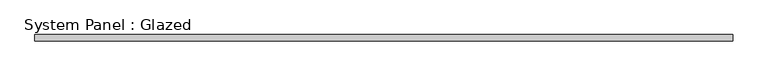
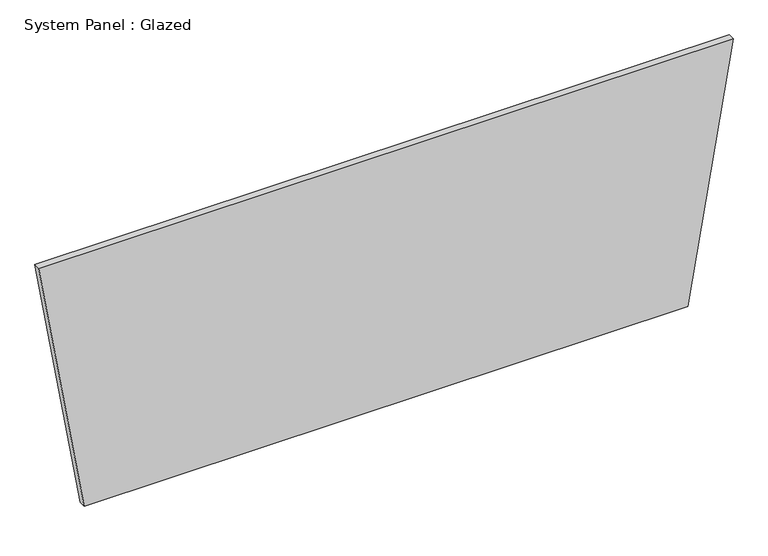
"""IFC4 building model written with IfcOpenShell, lengths in millimetres: plate geometry, System Panel : Glazed."""

import ifcopenshell
import ifcopenshell.guid

model = None  # the IFC model being written
_history = None  # IfcOwnerHistory: only IFC2X3 demands one
_inside = {}  # id of a spatial element -> (the spatial element, [elements in it])
_under = {}  # id of a project, library or spatial element -> (it, [spatial elements below it])
_declared = {}  # id of a project -> (the project, [libraries it declares])
_typed = {}  # id of a type object -> (the type object, [elements of that type])
_made_of = {}  # id of a material, layer set ... -> (it, [elements and type objects made of it])


def new_model(schema):
    """Start an empty IFC model of exactly this schema.

    Asked for "IFC4X3", IfcOpenShell would pick the latest addendum, in which some entities
    have other attributes; the version numbers below select the first issue.
    IFC2X3 requires an IfcOwnerHistory on every rooted entity: one is made here for all.
    """
    global model, _history
    if schema == "IFC4X3":
        model = ifcopenshell.file(schema_version=(4, 3, 0, 0))
    else:
        model = ifcopenshell.file(schema=schema)
    _inside.clear()
    _under.clear()
    _declared.clear()
    _typed.clear()
    _made_of.clear()
    _history = None
    if model.schema == "IFC2X3":
        org = make("IfcOrganization", Name="unknown")
        user = make(
            "IfcPersonAndOrganization",
            ThePerson=make("IfcPerson", FamilyName="unknown"),
            TheOrganization=org,
        )
        app = make(
            "IfcApplication",
            ApplicationDeveloper=org,
            Version="unknown",
            ApplicationFullName="unknown",
            ApplicationIdentifier="unknown",
        )
        _history = make(
            "IfcOwnerHistory",
            OwningUser=user,
            OwningApplication=app,
            ChangeAction="ADDED",
            CreationDate=0,
        )
    return model


def make(cls, **values):
    """One entity of the class cls with the attributes given. An attribute that is None is left unset."""
    return model.create_entity(
        cls, **{name: value for name, value in values.items() if value is not None}
    )


def rooted(cls, **values):
    """An entity with a GlobalId (a new one), such as an element, a storey or a relation."""
    return make(cls, GlobalId=ifcopenshell.guid.new(), OwnerHistory=_history, **values)


def si_unit(unit_type, name, prefix=None):
    """IfcSIUnit, for example si_unit("LENGTHUNIT", "METRE", prefix="MILLI")."""
    return make("IfcSIUnit", UnitType=unit_type, Prefix=prefix, Name=name)


def assignment(units):
    """IfcUnitAssignment: the units of a project."""
    return None if units is None else make("IfcUnitAssignment", Units=units)


def point(xyz):
    """IfcCartesianPoint."""
    return None if xyz is None else make("IfcCartesianPoint", Coordinates=xyz)


def direction(xyz):
    """IfcDirection."""
    return None if xyz is None else make("IfcDirection", DirectionRatios=xyz)


def frame(location, z_axis=None, x_axis=None):
    """IfcAxis2Placement3D, a coordinate frame: its origin and axes. An axis left out is left unset."""
    return make(
        "IfcAxis2Placement3D",
        Location=point(location),
        Axis=direction(z_axis),
        RefDirection=direction(x_axis),
    )


def origin():
    """The frame at (0, 0, 0) with its axes left unset."""
    return frame((0.0, 0.0, 0.0))


def place(relative_to, where):
    """IfcLocalPlacement: puts the frame where relative to a parent placement (None: the world)."""
    return make(
        "IfcLocalPlacement", PlacementRelTo=relative_to, RelativePlacement=where
    )


def context(
    kind, dimensions, precision=None, world=None, true_north=None, identifier=None
):
    """IfcGeometricRepresentationContext, for example the 3D "Model" context."""
    return make(
        "IfcGeometricRepresentationContext",
        ContextIdentifier=identifier,
        ContextType=kind,
        CoordinateSpaceDimension=dimensions,
        Precision=precision,
        WorldCoordinateSystem=world,
        TrueNorth=true_north,
    )


def project(units=None, contexts=None):
    """IfcProject with its units and contexts."""
    return rooted(
        "IfcProject",
        Name="project",
        RepresentationContexts=contexts,
        UnitsInContext=assignment(units),
    )


def spatial(cls, under=None, at=None, **own):
    """A site, building, storey or space (cls), placed at a placement, below another one or the project."""
    s = rooted(cls, ObjectPlacement=at, **own)
    if under is not None:
        _under.setdefault(under.id(), (under, []))[1].append(s)
    return s


def polyline(points):
    """IfcPolyline through the points."""
    return make("IfcPolyline", Points=[point(p) for p in points])


def outline(outer, holes=None, kind="AREA"):
    """IfcArbitraryClosedProfileDef: a profile drawn as a closed curve; with holes, ...WithVoids."""
    if holes is None:
        return make("IfcArbitraryClosedProfileDef", ProfileType=kind, OuterCurve=outer)
    return make(
        "IfcArbitraryProfileDefWithVoids",
        ProfileType=kind,
        OuterCurve=outer,
        InnerCurves=holes,
    )


def extrude(swept, where, along, depth):
    """IfcExtrudedAreaSolid: the profile swept, set in the frame where, extruded along a direction by depth."""
    return make(
        "IfcExtrudedAreaSolid",
        SweptArea=swept,
        Position=where,
        ExtrudedDirection=direction(along),
        Depth=depth,
    )


def shape(context_of_items, identifier, shape_type, items):
    """IfcShapeRepresentation: the items that make up one representation, for example the "Body"."""
    return make(
        "IfcShapeRepresentation",
        ContextOfItems=context_of_items,
        RepresentationIdentifier=identifier,
        RepresentationType=shape_type,
        Items=items,
    )


def source(mapping_origin, context_of_items, identifier, shape_type, items):
    """IfcRepresentationMap: a shape defined once, which mapped items show again and again."""
    return make(
        "IfcRepresentationMap",
        MappingOrigin=mapping_origin,
        MappedRepresentation=shape(context_of_items, identifier, shape_type, items),
    )


def transform(
    local_origin,
    x_axis=None,
    y_axis=None,
    z_axis=None,
    scale=None,
    scale2=None,
    scale3=None,
    uniform=True,
):
    """IfcCartesianTransformationOperator3D, or its non-uniform kind. x_axis, y_axis, z_axis: its Axis1, 2, 3."""
    if uniform:
        return make(
            "IfcCartesianTransformationOperator3D",
            Axis1=direction(x_axis),
            Axis2=direction(y_axis),
            LocalOrigin=point(local_origin),
            Scale=scale,
            Axis3=direction(z_axis),
        )
    return make(
        "IfcCartesianTransformationOperator3DnonUniform",
        Axis1=direction(x_axis),
        Axis2=direction(y_axis),
        LocalOrigin=point(local_origin),
        Scale=scale,
        Axis3=direction(z_axis),
        Scale2=scale2,
        Scale3=scale3,
    )


def mapped(mapping_source, mapping_target):
    """IfcMappedItem: shows the shape of a source again, moved by a transform."""
    return make(
        "IfcMappedItem", MappingSource=mapping_source, MappingTarget=mapping_target
    )


def made_of(thing, what):
    """Note that an element or type object is made of a material, layer set ...; save() writes the relation."""
    if what is not None:
        _made_of.setdefault(what.id(), (what, []))[1].append(thing)
    return thing


def element(
    cls,
    number,
    at=None,
    inside=None,
    cuts=None,
    type_object=None,
    material=None,
    context=None,
    identifier="Body",
    shape_type=None,
    held_by="IfcProductDefinitionShape",
    body=None,
    shapes=None,
    **own,
):
    """One element of the class cls, such as IfcWall. Its Tag is "e" and its number.

    at: its placement. inside: the storey or other place that contains it. cuts: it is an
    opening in that element (IfcRelVoidsElement). A single representation is given by context,
    identifier, shape_type and body (its items); several are given by shapes. held_by: the class
    of the entity that holds the representations. save() writes the other relations.
    """
    e = rooted(cls, Tag="e%d" % number, ObjectPlacement=at, **own)
    if body is not None:
        shapes = [shape(context, identifier, shape_type, body)]
    if shapes is not None:
        e.Representation = make(held_by, Representations=shapes)
    if inside is not None:
        _inside.setdefault(inside.id(), (inside, []))[1].append(e)
    if cuts is not None:
        rooted(
            "IfcRelVoidsElement", RelatingBuildingElement=cuts, RelatedOpeningElement=e
        )
    if type_object is not None:
        _typed.setdefault(type_object.id(), (type_object, []))[1].append(e)
    return made_of(e, material)


def aggregate(whole, parts):
    """IfcRelAggregates: a whole, such as a stair, and the parts it consists of."""
    return rooted("IfcRelAggregates", RelatingObject=whole, RelatedObjects=parts)


def save(model, path):
    """Write the relations noted so far, then the file.

    IfcRelAggregates (storeys below a building ...), IfcRelContainedInSpatialStructure (elements
    in a storey), IfcRelDefinesByType, IfcRelAssociatesMaterial and IfcRelDeclares: one each for
    every whole, place, type object, material and project.
    """
    for whole, parts in _under.values():
        aggregate(whole, parts)
    for where, things in _inside.values():
        rooted(
            "IfcRelContainedInSpatialStructure",
            RelatedElements=things,
            RelatingStructure=where,
        )
    for kind, things in _typed.values():
        rooted("IfcRelDefinesByType", RelatedObjects=things, RelatingType=kind)
    for what, things in _made_of.values():
        rooted("IfcRelAssociatesMaterial", RelatedObjects=things, RelatingMaterial=what)
    for by, libraries in _declared.values():
        rooted("IfcRelDeclares", RelatingContext=by, RelatedDefinitions=libraries)
    model.write(path)


def system_panel_glazed_23af2605(model_context):
    return source(origin(), model_context, "Body", "SweptSolid", [
        extrude(outline(polyline([(0.0, -1186.6114793), (0.0, 1186.6114793), (1051.7114355, 1365.3998916), (1051.7114355, -1365.3998916), (0.0, -1186.6114793)])), frame((0.0, -44.45, 0.0), z_axis=(0.0, 1.0, 0.0), x_axis=(0.0, 0.0, 1.0)), (0.0, 0.0, 1.0), 25.4),
    ])


if __name__ == "__main__":
    model = new_model("IFC4")
    model_context = context("Model", 3, world=origin())
    ifc_project = project(units=[si_unit("LENGTHUNIT", "METRE", prefix="MILLI")], contexts=[model_context])
    site = spatial("IfcSite", under=ifc_project)
    building = spatial("IfcBuilding", under=site)
    placement = place(None, origin())
    system_panel_glazed_shape = system_panel_glazed_23af2605(model_context)
    element("IfcPlate", 1, ObjectType="System Panel : Glazed", at=placement, inside=building, context=model_context, shape_type="MappedRepresentation", body=[
        mapped(system_panel_glazed_shape, transform((0.0, 0.0, 0.0), x_axis=(1.0, 0.0, 0.0), y_axis=(0.0, 1.0, 0.0), z_axis=(0.0, 0.0, 1.0))),
    ])
    save(model, "model.ifc")
